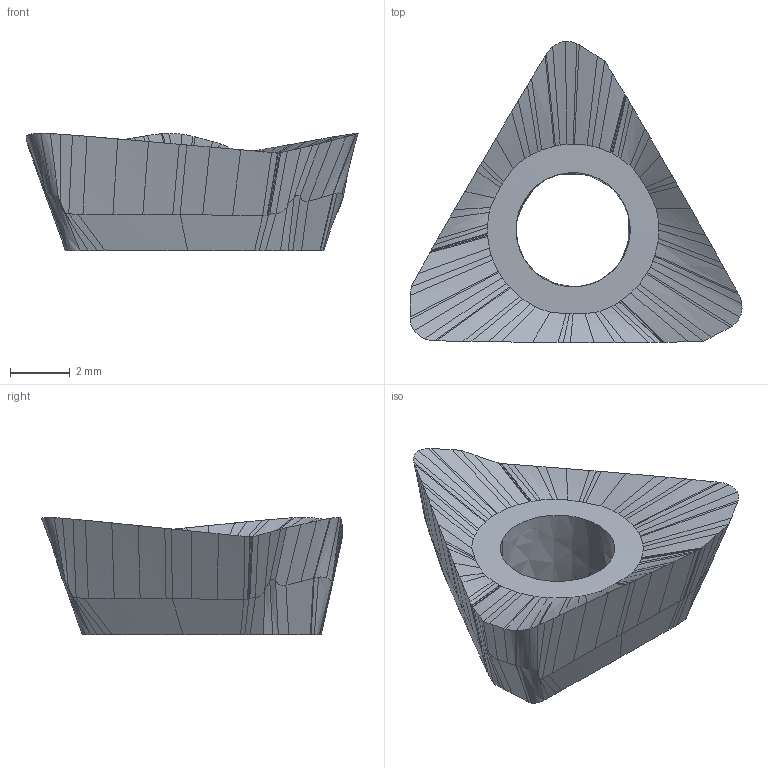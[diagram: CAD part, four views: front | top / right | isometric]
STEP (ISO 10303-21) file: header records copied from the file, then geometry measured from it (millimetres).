
FILE_DESCRIPTION(('CATIA V5 STEP','CAx-IF Rec.Pracs.--- Model Styling and Organization---1.2---2011-12-15'),'2;1');
FILE_NAME('N:\data\isr\design\special1\users\NATALY_B\Tal\NPA\5607518\HM390 TPCR1003PDFR-P.stp','2017-02-01T15:16:01+00:00',('none'),('none'),'CATIA Version 5 Release 21 SP 5 (IN-10)','CATIA V5 STEP AP214','none');
FILE_SCHEMA(('AUTOMOTIVE_DESIGN { 1 0 10303 214 1 1 1 1 }'));
Length unit declared in the file: millimetre
Products named in the file (1): HM390 TPCR1003PDFR-P
Bounding box: 11.08 x 10.05 x 3.92 mm (x, y, z)
Volume: 140.1 mm3; surface area: 241.4 mm2
Topology: 1 solids, 1 shells, 211 faces, 591 edges, 383 vertices
Faces by surface type: bspline 172, plane 37, extrusion 2
Entity records: 15475 total; most frequent: CARTESIAN_POINT 11640, ORIENTED_EDGE 1074, EDGE_CURVE 537, B_SPLINE_CURVE_WITH_KNOTS 505, VERTEX_POINT 328, EDGE_LOOP 213, ADVANCED_FACE 211, FACE_OUTER_BOUND 211
